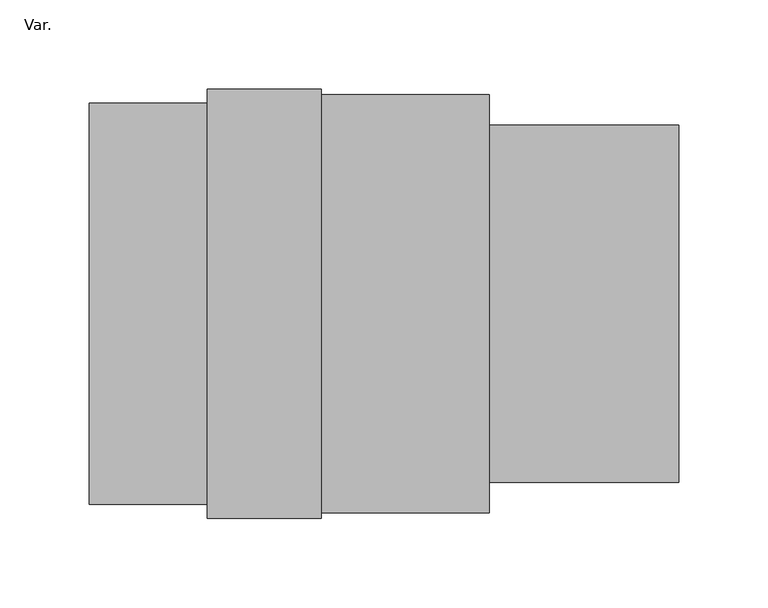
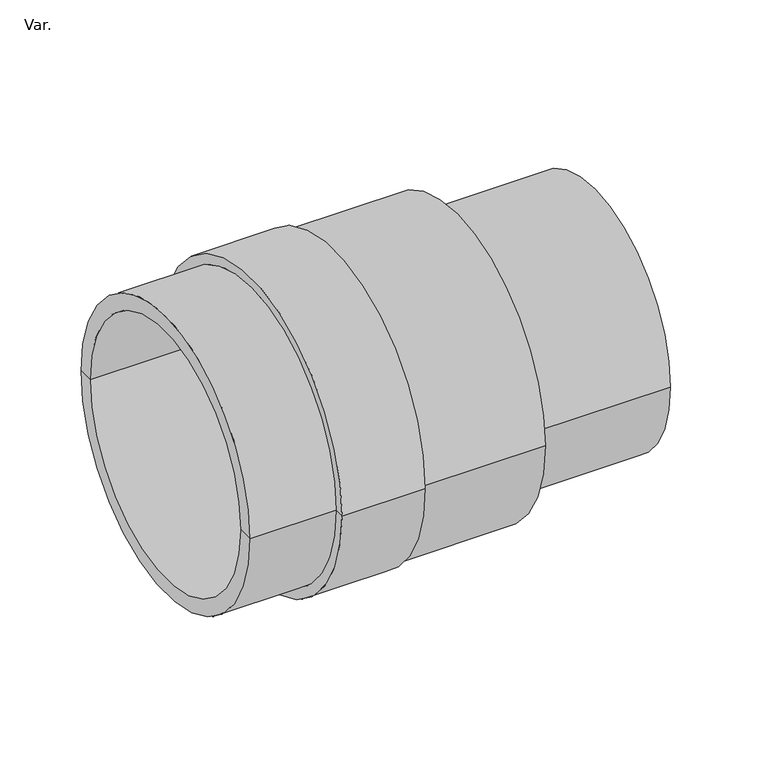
"""IFC4 building model written with IfcOpenShell, lengths in millimetres: pipe fitting geometry, PlastigamaWavin_Unionesdetubería_Presión UZ_AdaptadorECorto : Var.."""

from ifc_helpers import new_model, si_unit, frame, origin, place, context, project, spatial, polyline, circle_curve, source, transform, mapped, element, save
from ifc_brep_helpers import plane_surface, cylinder_surface, revolved_surface, advanced_brep


def var_639a9b50(model_context):
    return source(origin(), model_context, "Body", "AdvancedBrep", [
        advanced_brep(
        [(-224.0, -112.5, 0.0), (-224.0, 112.5, 0.0), (-158.0, 112.5, 0.0), (-158.0, -112.5, 0.0), (-224.0, -100.35, 0.0), (-224.0, 100.35, 0.0), (-71.0, -100.35, 0.0), (-71.0, 100.35, 0.0), (-71.0, -90.4, 0.0), (-71.0, 90.4, 0.0), (106.0, -90.4, 0.0), (106.0, 90.4, 0.0), (106.0, -100.0, 0.0), (106.0, 100.0, 0.0), (0.0, -100.0, 0.0), (0.0, 100.0, 0.0), (0.0, -117.1, 0.0), (0.0, 117.1, 0.0), (-94.0, -117.1, 0.0), (-94.0, 117.1, 0.0), (-94.0, -120.2, 0.0), (-94.0, 120.2, 0.0), (-158.0, -120.2, 0.0), (-158.0, 120.2, 0.0)],
        [
            (0, 1, circle_curve(frame((-224.0, 0.0, 0.0), z_axis=(1.0, 0.0, 0.0), x_axis=(0.0, 1.0, 0.0)), 112.5)),
            (1, 2),
            (2, 3, circle_curve(frame((-158.0, 0.0, 0.0), z_axis=(-1.0, 0.0, 0.0), x_axis=(0.0, 1.0, 0.0)), 112.5)),
            (3, 0),
            (1, 0, circle_curve(frame((-224.0, 0.0, 0.0), z_axis=(1.0, 0.0, 0.0), x_axis=(0.0, 1.0, 0.0)), 112.5)),
            (3, 2, circle_curve(frame((-158.0, 0.0, 0.0), z_axis=(-1.0, 0.0, 0.0), x_axis=(0.0, 1.0, 0.0)), 112.5)),
            (4, 5, circle_curve(frame((-224.0, 0.0, 0.0), z_axis=(1.0, 0.0, 0.0), x_axis=(0.0, 1.0, 0.0)), 100.35)),
            (5, 1),
            (0, 4),
            (5, 4, circle_curve(frame((-224.0, 0.0, 0.0), z_axis=(1.0, 0.0, 0.0), x_axis=(0.0, 1.0, 0.0)), 100.35)),
            (6, 7, circle_curve(frame((-71.0, 0.0, 0.0), z_axis=(1.0, 0.0, 0.0), x_axis=(0.0, 1.0, 0.0)), 100.35)),
            (7, 5),
            (4, 6),
            (7, 6, circle_curve(frame((-71.0, 0.0, 0.0), z_axis=(1.0, 0.0, 0.0), x_axis=(0.0, 1.0, 0.0)), 100.35)),
            (8, 9, circle_curve(frame((-71.0, 0.0, 0.0), z_axis=(1.0, 0.0, 0.0), x_axis=(0.0, 1.0, 0.0)), 90.4)),
            (9, 7),
            (6, 8),
            (9, 8, circle_curve(frame((-71.0, 0.0, 0.0), z_axis=(1.0, 0.0, 0.0), x_axis=(0.0, 1.0, 0.0)), 90.4)),
            (10, 11, circle_curve(frame((106.0, 0.0, 0.0), z_axis=(1.0, 0.0, 0.0), x_axis=(0.0, 1.0, 0.0)), 90.4)),
            (11, 9),
            (8, 10),
            (11, 10, circle_curve(frame((106.0, 0.0, 0.0), z_axis=(1.0, 0.0, 0.0), x_axis=(0.0, 1.0, 0.0)), 90.4)),
            (12, 13, circle_curve(frame((106.0, 0.0, 0.0), z_axis=(1.0, 0.0, 0.0), x_axis=(0.0, 1.0, 0.0)), 100.0)),
            (13, 11),
            (10, 12),
            (13, 12, circle_curve(frame((106.0, 0.0, 0.0), z_axis=(1.0, 0.0, 0.0), x_axis=(0.0, 1.0, 0.0)), 100.0)),
            (14, 15, circle_curve(frame((0.0, 0.0, 0.0), z_axis=(1.0, 0.0, 0.0), x_axis=(0.0, 1.0, 0.0)), 100.0)),
            (15, 13),
            (12, 14),
            (15, 14, circle_curve(frame((0.0, 0.0, 0.0), z_axis=(1.0, 0.0, 0.0), x_axis=(0.0, 1.0, 0.0)), 100.0)),
            (16, 17, circle_curve(frame((0.0, 0.0, 0.0), z_axis=(1.0, 0.0, 0.0), x_axis=(0.0, 1.0, 0.0)), 117.1)),
            (17, 15),
            (14, 16),
            (17, 16, circle_curve(frame((0.0, 0.0, 0.0), z_axis=(1.0, 0.0, 0.0), x_axis=(0.0, 1.0, 0.0)), 117.1)),
            (18, 19, circle_curve(frame((-94.0, 0.0, 0.0), z_axis=(1.0, 0.0, 0.0), x_axis=(0.0, 1.0, 0.0)), 117.1)),
            (19, 17),
            (16, 18),
            (19, 18, circle_curve(frame((-94.0, 0.0, 0.0), z_axis=(1.0, 0.0, 0.0), x_axis=(0.0, 1.0, 0.0)), 117.1)),
            (20, 21, circle_curve(frame((-94.0, 0.0, 0.0), z_axis=(1.0, 0.0, 0.0), x_axis=(0.0, 1.0, 0.0)), 120.2)),
            (21, 19),
            (18, 20),
            (21, 20, circle_curve(frame((-94.0, 0.0, 0.0), z_axis=(1.0, 0.0, 0.0), x_axis=(0.0, 1.0, 0.0)), 120.2)),
            (22, 23, circle_curve(frame((-158.0, 0.0, 0.0), z_axis=(1.0, 0.0, 0.0), x_axis=(0.0, 1.0, 0.0)), 120.2)),
            (23, 21),
            (20, 22),
            (23, 22, circle_curve(frame((-158.0, 0.0, 0.0), z_axis=(1.0, 0.0, 0.0), x_axis=(0.0, 1.0, 0.0)), 120.2)),
            (2, 23),
            (22, 3),
        ],
        [
            cylinder_surface(frame((-167.8, 0.0, 0.0), z_axis=(-1.0, 0.0, 0.0), x_axis=(0.0, 1.0, 0.0)), 112.5),
            plane_surface(frame((-224.0, 0.0, 0.0), z_axis=(-1.0, 0.0, 0.0), x_axis=(0.0, 1.0, 0.0))),
            revolved_surface(polyline([(-224.0, 100.35, 0.0), (-71.0, 100.35, 0.0)]), (-167.8, 0.0, 0.0), (-1.0, 0.0, 0.0)),
            plane_surface(frame((-71.0, 0.0, 0.0), z_axis=(-1.0, 0.0, 0.0), x_axis=(0.0, 1.0, 0.0))),
            revolved_surface(polyline([(-71.0, 90.4, 0.0), (106.0, 90.4, 0.0)]), (-167.8, 0.0, 0.0), (-1.0, 0.0, 0.0)),
            plane_surface(frame((106.0, 0.0, 0.0), z_axis=(1.0, 0.0, 0.0), x_axis=(0.0, 1.0, 0.0))),
            cylinder_surface(frame((-167.8, 0.0, 0.0), z_axis=(-1.0, 0.0, 0.0), x_axis=(0.0, 1.0, 0.0)), 100.0),
            plane_surface(frame((0.0, 0.0, 0.0), z_axis=(1.0, 0.0, 0.0), x_axis=(0.0, 1.0, 0.0))),
            cylinder_surface(frame((-167.8, 0.0, 0.0), z_axis=(-1.0, 0.0, 0.0), x_axis=(0.0, 1.0, 0.0)), 117.1),
            plane_surface(frame((-94.0, 0.0, 0.0), z_axis=(1.0, 0.0, 0.0), x_axis=(0.0, 1.0, 0.0))),
            cylinder_surface(frame((-167.8, 0.0, 0.0), z_axis=(-1.0, 0.0, 0.0), x_axis=(0.0, 1.0, 0.0)), 120.2),
            plane_surface(frame((-158.0, 0.0, 0.0), z_axis=(-1.0, 0.0, 0.0), x_axis=(0.0, 1.0, 0.0))),
        ],
        [
            (0, [[1, 2, 3, 4]]),
            (0, [[5, -4, 6, -2]]),
            (1, [[7, 8, -1, 9]]),
            (1, [[10, -9, -5, -8]]),
            (2, [[11, 12, -7, 13]]),
            (2, [[14, -13, -10, -12]]),
            (3, [[15, 16, -11, 17]]),
            (3, [[18, -17, -14, -16]]),
            (4, [[19, 20, -15, 21]]),
            (4, [[22, -21, -18, -20]]),
            (5, [[23, 24, -19, 25]]),
            (5, [[26, -25, -22, -24]]),
            (6, [[27, 28, -23, 29]]),
            (6, [[30, -29, -26, -28]]),
            (7, [[31, 32, -27, 33]]),
            (7, [[34, -33, -30, -32]]),
            (8, [[35, 36, -31, 37]]),
            (8, [[38, -37, -34, -36]]),
            (9, [[39, 40, -35, 41]]),
            (9, [[42, -41, -38, -40]]),
            (10, [[43, 44, -39, 45]]),
            (10, [[46, -45, -42, -44]]),
            (11, [[-3, 47, -43, 48]]),
            (11, [[-6, -48, -46, -47]]),
        ],
    ),
    ])


if __name__ == "__main__":
    model = new_model("IFC4")
    model_context = context("Model", 3, world=origin())
    ifc_project = project(units=[si_unit("LENGTHUNIT", "METRE", prefix="MILLI")], contexts=[model_context])
    site = spatial("IfcSite", under=ifc_project)
    building = spatial("IfcBuilding", under=site)
    placement = place(None, origin())
    var_shape = var_639a9b50(model_context)
    element("IfcPipeFitting", 1, ObjectType="PlastigamaWavin_Unionesdetubería_Presión UZ_AdaptadorECorto : Var.", at=placement, inside=building, context=model_context, shape_type="MappedRepresentation", body=[
        mapped(var_shape, transform((0.0, 0.0, 0.0), x_axis=(1.0, 0.0, 0.0), y_axis=(0.0, 1.0, 0.0), z_axis=(0.0, 0.0, 1.0))),
    ])
    save(model, "model.ifc")
